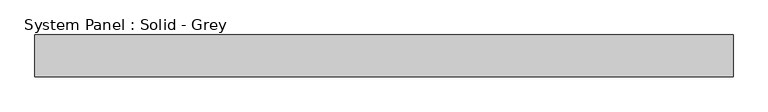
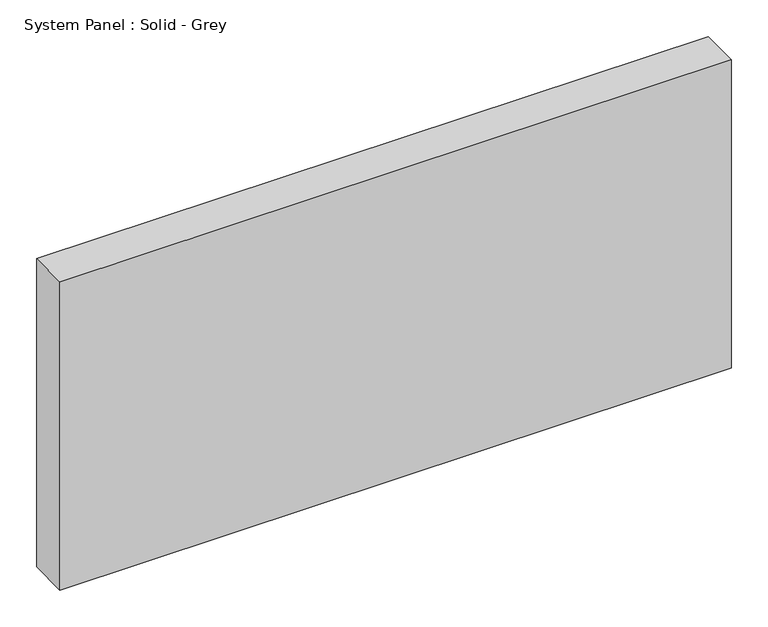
"""IFC4 building model written with IfcOpenShell, lengths in millimetres: plate geometry, System Panel : Solid - Grey."""

from ifc_helpers import new_model, si_unit, origin, origin_with_axes, place, context, project, spatial, polyline, outline, extrude, source, transform, mapped, element, save


def system_panel_solid_grey_35677c19(model_context):
    return source(origin(), model_context, "Body", "SweptSolid", [
        extrude(outline(polyline([(529.544643, -19.05), (-529.544643, -19.05), (-529.544643, 44.45), (529.544643, 44.45), (529.544643, -19.05)])), origin_with_axes(), (0.0, 0.0, 1.0), 514.35),
    ])


if __name__ == "__main__":
    model = new_model("IFC4")
    model_context = context("Model", 3, world=origin())
    ifc_project = project(units=[si_unit("LENGTHUNIT", "METRE", prefix="MILLI")], contexts=[model_context])
    site = spatial("IfcSite", under=ifc_project)
    building = spatial("IfcBuilding", under=site)
    placement = place(None, origin())
    system_panel_solid_grey_shape = system_panel_solid_grey_35677c19(model_context)
    element("IfcPlate", 1, ObjectType="System Panel : Solid - Grey", at=placement, inside=building, context=model_context, shape_type="MappedRepresentation", body=[
        mapped(system_panel_solid_grey_shape, transform((0.0, 0.0, 0.0), x_axis=(1.0, 0.0, 0.0), y_axis=(0.0, 1.0, 0.0), z_axis=(0.0, 0.0, 1.0))),
    ])
    save(model, "model.ifc")
